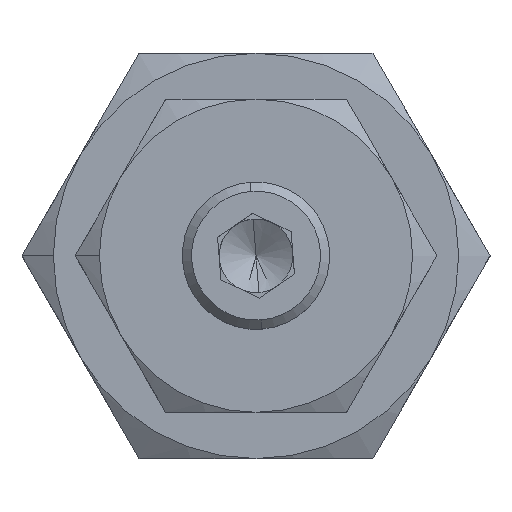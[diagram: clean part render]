
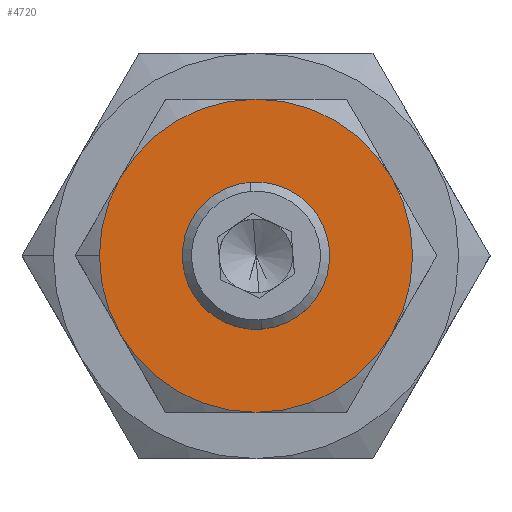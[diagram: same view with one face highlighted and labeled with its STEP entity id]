
A CAD part, top view. The second image highlights one B-rep face of the part: STEP entity #4720.
In plain terms, the highlighted planar face has unit normal (0, 0, 1).
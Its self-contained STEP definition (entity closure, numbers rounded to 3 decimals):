
#109 = CARTESIAN_POINT ( 'NONE',  ( 3.9, 0., 5. ) ) ;
#132 = FACE_OUTER_BOUND ( 'NONE', #10268, .T. ) ;
#517 = ORIENTED_EDGE ( 'NONE', *, *, #18295, .T. ) ;
#520 = CARTESIAN_POINT ( 'NONE',  ( -3.9, 0., 5. ) ) ;
#586 = FACE_BOUND ( 'NONE', #16803, .T. ) ;
#1391 = AXIS2_PLACEMENT_3D ( 'NONE', #10824, #2216, #12260 ) ;
#1755 = CARTESIAN_POINT ( 'NONE',  ( 14.722, 8.5, 5. ) ) ;
#1780 = DIRECTION ( 'NONE',  ( 0., 0., 1. ) ) ;
#2137 = VERTEX_POINT ( 'NONE', #10713 ) ;
#2216 = DIRECTION ( 'NONE',  ( 0., 0., 1. ) ) ;
#2292 = AXIS2_PLACEMENT_3D ( 'NONE', #6126, #16179, #7575 ) ;
#2337 = AXIS2_PLACEMENT_3D ( 'NONE', #6630, #16682, #8084 ) ;
#2575 = DIRECTION ( 'NONE',  ( 0., 0., -1. ) ) ;
#2739 = AXIS2_PLACEMENT_3D ( 'NONE', #16312, #7700, #17745 ) ;
#2742 = EDGE_CURVE ( 'NONE', #13857, #17151, #6327, .T. ) ;
#4235 = DIRECTION ( 'NONE',  ( 0., 0., 1. ) ) ;
#4375 = CIRCLE ( 'NONE', #4723, 8.5 ) ;
#4494 = CIRCLE ( 'NONE', #2292, 8.5 ) ;
#4607 = CIRCLE ( 'NONE', #2739, 8.5 ) ;
#4645 = DIRECTION ( 'NONE',  ( 1., 0., 0. ) ) ;
#4646 = CIRCLE ( 'NONE', #13807, 8.5 ) ;
#4659 = CARTESIAN_POINT ( 'NONE',  ( 0., 0., 5. ) ) ;
#4720 = ADVANCED_FACE ( 'NONE', ( #586, #132 ), #13158, .T. ) ;
#4723 = AXIS2_PLACEMENT_3D ( 'NONE', #12797, #4235, #14248 ) ;
#4879 = DIRECTION ( 'NONE',  ( 0., 0., 1. ) ) ;
#5330 = VERTEX_POINT ( 'NONE', #520 ) ;
#5336 = EDGE_CURVE ( 'NONE', #2137, #13380, #4646, .T. ) ;
#6089 = DIRECTION ( 'NONE',  ( 1., 0., 0. ) ) ;
#6126 = CARTESIAN_POINT ( 'NONE',  ( 0., 0., 5. ) ) ;
#6303 = AXIS2_PLACEMENT_3D ( 'NONE', #4659, #14692, #6089 ) ;
#6327 = CIRCLE ( 'NONE', #1391, 8.5 ) ;
#6439 = AXIS2_PLACEMENT_3D ( 'NONE', #10379, #1780, #11824 ) ;
#6457 = ORIENTED_EDGE ( 'NONE', *, *, #7890, .T. ) ;
#6630 = CARTESIAN_POINT ( 'NONE',  ( 0., 0., 5. ) ) ;
#6631 = ORIENTED_EDGE ( 'NONE', *, *, #5336, .T. ) ;
#7033 = CARTESIAN_POINT ( 'NONE',  ( 0., 8.5, 5. ) ) ;
#7141 = EDGE_CURVE ( 'NONE', #2137, #17758, #4494, .T. ) ;
#7575 = DIRECTION ( 'NONE',  ( -1., 0., 0. ) ) ;
#7700 = DIRECTION ( 'NONE',  ( 0., 0., 1. ) ) ;
#7890 = EDGE_CURVE ( 'NONE', #5330, #12307, #12748, .T. ) ;
#8002 = EDGE_CURVE ( 'NONE', #17151, #17758, #4375, .T. ) ;
#8084 = DIRECTION ( 'NONE',  ( 1., 0., 0. ) ) ;
#8505 = ORIENTED_EDGE ( 'NONE', *, *, #7141, .F. ) ;
#8720 = CARTESIAN_POINT ( 'NONE',  ( -8.5, 0., 5. ) ) ;
#10268 = EDGE_LOOP ( 'NONE', ( #16724, #16011, #8505, #6631, #17379, #517, #12281 ) ) ;
#10379 = CARTESIAN_POINT ( 'NONE',  ( 0., 0., 5. ) ) ;
#10713 = CARTESIAN_POINT ( 'NONE',  ( -7.361, 4.25, 5. ) ) ;
#10824 = CARTESIAN_POINT ( 'NONE',  ( 0., 0., 5. ) ) ;
#11097 = CIRCLE ( 'NONE', #6303, 8.5 ) ;
#11199 = CARTESIAN_POINT ( 'NONE',  ( 0., 0., 5. ) ) ;
#11222 = CARTESIAN_POINT ( 'NONE',  ( 7.361, -4.25, 5. ) ) ;
#11824 = DIRECTION ( 'NONE',  ( 1., 0., 0. ) ) ;
#12260 = DIRECTION ( 'NONE',  ( 1., 0., 0. ) ) ;
#12281 = ORIENTED_EDGE ( 'NONE', *, *, #14566, .T. ) ;
#12307 = VERTEX_POINT ( 'NONE', #109 ) ;
#12533 = CARTESIAN_POINT ( 'NONE',  ( -7.361, -4.25, 5. ) ) ;
#12618 = DIRECTION ( 'NONE',  ( 1., 0., 0. ) ) ;
#12748 = CIRCLE ( 'NONE', #12759, 3.9 ) ;
#12759 = AXIS2_PLACEMENT_3D ( 'NONE', #11199, #2575, #12618 ) ;
#12797 = CARTESIAN_POINT ( 'NONE',  ( 0., 0., 5. ) ) ;
#13118 = VERTEX_POINT ( 'NONE', #13866 ) ;
#13158 = PLANE ( 'NONE',  #17772 ) ;
#13232 = DIRECTION ( 'NONE',  ( 0., 0., 1. ) ) ;
#13380 = VERTEX_POINT ( 'NONE', #8720 ) ;
#13463 = CARTESIAN_POINT ( 'NONE',  ( 0., 0., 5. ) ) ;
#13753 = CIRCLE ( 'NONE', #2337, 3.9 ) ;
#13807 = AXIS2_PLACEMENT_3D ( 'NONE', #13463, #4879, #14912 ) ;
#13857 = VERTEX_POINT ( 'NONE', #11222 ) ;
#13866 = CARTESIAN_POINT ( 'NONE',  ( 0., -8.5, 5. ) ) ;
#14144 = ORIENTED_EDGE ( 'NONE', *, *, #15096, .T. ) ;
#14248 = DIRECTION ( 'NONE',  ( 1., 0., 0. ) ) ;
#14566 = EDGE_CURVE ( 'NONE', #13118, #13857, #11097, .T. ) ;
#14692 = DIRECTION ( 'NONE',  ( 0., 0., 1. ) ) ;
#14912 = DIRECTION ( 'NONE',  ( 1., 0., 0. ) ) ;
#15096 = EDGE_CURVE ( 'NONE', #12307, #5330, #13753, .T. ) ;
#15301 = CIRCLE ( 'NONE', #6439, 8.5 ) ;
#15713 = CARTESIAN_POINT ( 'NONE',  ( 7.361, 4.25, 5. ) ) ;
#15715 = EDGE_CURVE ( 'NONE', #13380, #16595, #15301, .T. ) ;
#16011 = ORIENTED_EDGE ( 'NONE', *, *, #8002, .T. ) ;
#16179 = DIRECTION ( 'NONE',  ( 0., 0., -1. ) ) ;
#16312 = CARTESIAN_POINT ( 'NONE',  ( 0., 0., 5. ) ) ;
#16595 = VERTEX_POINT ( 'NONE', #12533 ) ;
#16682 = DIRECTION ( 'NONE',  ( 0., 0., -1. ) ) ;
#16724 = ORIENTED_EDGE ( 'NONE', *, *, #2742, .T. ) ;
#16803 = EDGE_LOOP ( 'NONE', ( #14144, #6457 ) ) ;
#17151 = VERTEX_POINT ( 'NONE', #15713 ) ;
#17379 = ORIENTED_EDGE ( 'NONE', *, *, #15715, .T. ) ;
#17745 = DIRECTION ( 'NONE',  ( 1., 0., 0. ) ) ;
#17758 = VERTEX_POINT ( 'NONE', #7033 ) ;
#17772 = AXIS2_PLACEMENT_3D ( 'NONE', #1755, #13232, #4645 ) ;
#18295 = EDGE_CURVE ( 'NONE', #16595, #13118, #4607, .T. ) ;
